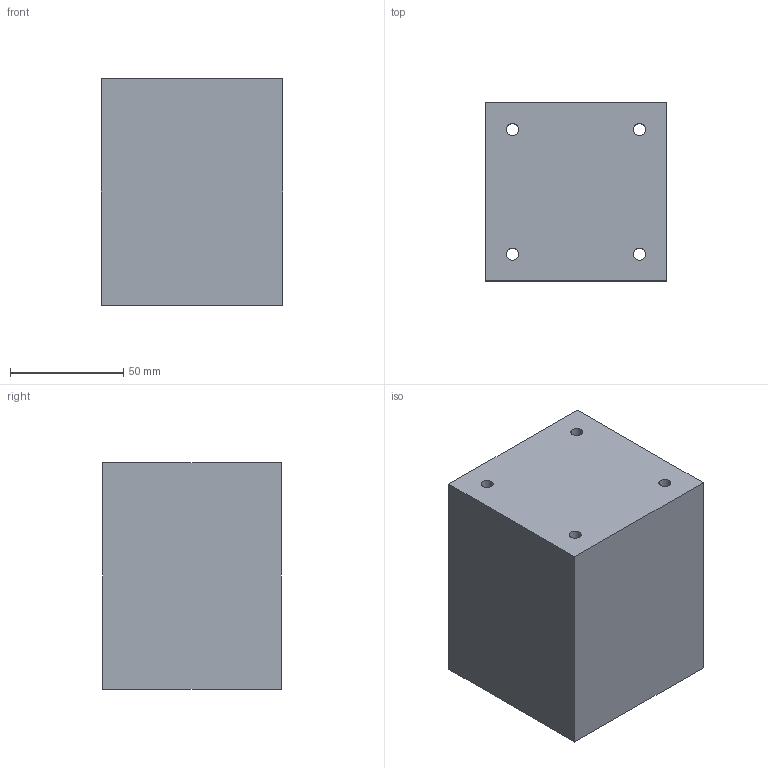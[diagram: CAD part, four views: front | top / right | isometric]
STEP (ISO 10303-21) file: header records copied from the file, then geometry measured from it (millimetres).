
FILE_DESCRIPTION(('Mechanical CAD reference from nasji.com'),'2;1');
FILE_NAME('NASJI.step','',(''),(''),'','NASJI distribution','');
FILE_SCHEMA(('AUTOMOTIVE_DESIGN { 1 0 10303 214 1 1 1 1 }'));
Length unit declared in the file: millimetre
Products named in the file (1): Open CASCADE STEP translator 7.8 4
Bounding box: 80 x 78.5 x 100 mm (x, y, z)
Volume: 619175.3 mm3; surface area: 50743.7 mm2
Topology: 1 solids, 1 shells, 10 faces, 24 edges, 16 vertices
Faces by surface type: plane 6, cylinder 4
Full cylindrical faces by diameter (mm): 5.3 x4
Entity records: 658 total; most frequent: CARTESIAN_POINT 147, DIRECTION 94, LINE 56, VECTOR 56, ORIENTED_EDGE 48, PCURVE 48, DEFINITIONAL_REPRESENTATION 48, EDGE_CURVE 24
